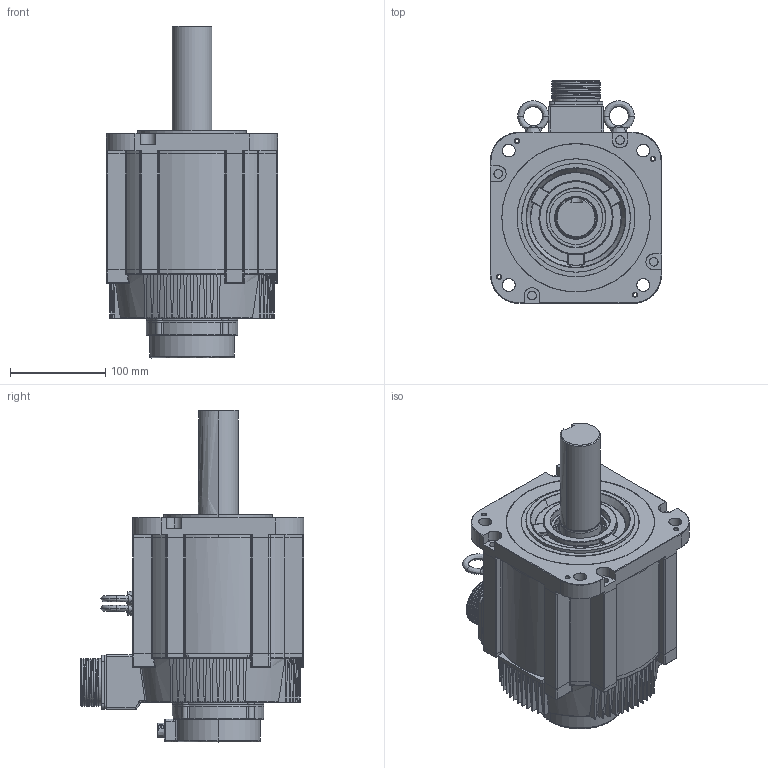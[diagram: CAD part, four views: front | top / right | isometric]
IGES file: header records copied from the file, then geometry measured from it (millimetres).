
Start section: SolidWorks IGES file using analytic representation for surfaces
Global section: file name: C:\Users\11755\Desktop\騰禾380V\外型圖\SMP系列_馬達外型圖(客戶版)\3D-IGES\SMP-H550.IGS; native system: SolidWorks 2016; preprocessor: SolidWorks 2016; author: 11755; date: 210504.135605; units: millimetre
Bounding box: 180 x 234.8 x 349.3 mm (x, y, z)
Surface area: 315863.2 mm2 (no closed solid volume)
Topology: 0 solids, 0 shells, 1013 faces, 11427 edges, 11395 vertices
Faces by surface type: revolution 552, bspline 461
